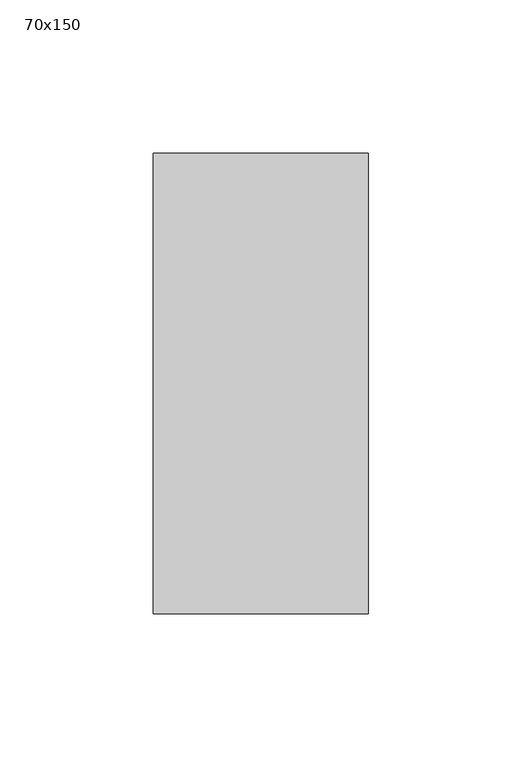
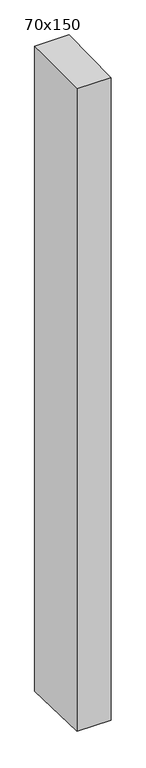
"""IFC4 building model written with IfcOpenShell, lengths in millimetres: member geometry, 長方形のマリオン : 70x150."""

from ifc_helpers import new_model, si_unit, frame, origin, place, context, project, spatial, polyline, outline, extrude, source, transform, mapped, element, save


def member_70x150_7c936580(model_context):
    return source(origin(), model_context, "Body", "SweptSolid", [
        extrude(outline(polyline([(-75.0, -0.7561664), (75.0, 0.7561664), (75.0, -1394.1369091), (-75.0, -1390.4185527), (-75.0, -0.7561664)])), frame((-70.0, 0.0, 0.0), z_axis=(1.0, 0.0, 0.0), x_axis=(0.0, 1.0, 0.0)), (0.0, 0.0, 1.0), 70.0),
    ])


if __name__ == "__main__":
    model = new_model("IFC4")
    model_context = context("Model", 3, world=origin())
    ifc_project = project(units=[si_unit("LENGTHUNIT", "METRE", prefix="MILLI")], contexts=[model_context])
    site = spatial("IfcSite", under=ifc_project)
    building = spatial("IfcBuilding", under=site)
    placement = place(None, origin())
    member_70x150_shape = member_70x150_7c936580(model_context)
    element("IfcMember", 1, ObjectType="長方形のマリオン : 70x150", at=placement, inside=building, context=model_context, shape_type="MappedRepresentation", body=[
        mapped(member_70x150_shape, transform((0.0, 0.0, 0.0), x_axis=(1.0, 0.0, 0.0), y_axis=(0.0, 1.0, 0.0), z_axis=(0.0, 0.0, 1.0))),
    ])
    save(model, "model.ifc")
